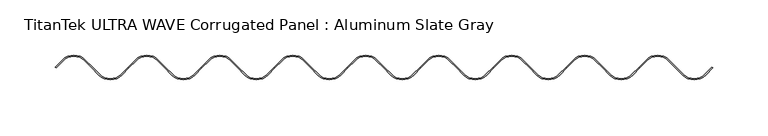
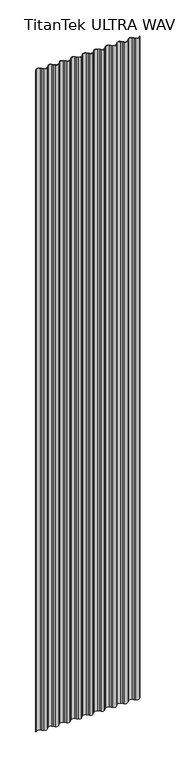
"""IFC4 building model written with IfcOpenShell, lengths in millimetres: proxy geometry, TitanTek ULTRA WAVE Corrugated Panel : Aluminum Slate Gray."""

from ifc_helpers import new_model, si_unit, point, frame_2d, origin, origin_with_axes, place, context, project, spatial, polyline, circle_curve, trimmed, segment, composite_curve, outline, extrude, source, transform, mapped, element, save


def titantek_ultra_wave_corrugated_panel_aluminum_slate_gray_d8f012a7(model_context):
    return source(origin(), model_context, "Body", "SweptSolid", [
        extrude(outline(composite_curve([segment(trimmed(circle_curve(frame_2d((577.85, -7.499029)), 14.7255365), [point((588.2625267, -17.9115558))], [point((567.4374733, -17.9115558))], False, "CARTESIAN"), True, "CONTINUOUS"), segment(polyline([(567.4374733, -17.9115558), (560.9892087, -11.4632913), (554.5409442, -5.0150267)]), True, "CONTINUOUS"), segment(trimmed(circle_curve(frame_2d((544.83, -14.725971)), 13.733349), [point((554.5409442, -5.0150267))], [point((535.1190558, -5.0150267))], True, "CARTESIAN"), True, "CONTINUOUS"), segment(polyline([(535.1190558, -5.0150267), (528.6707913, -11.4632913), (527.9692087, -10.7617087), (534.4174733, -4.3134442)]), True, "CONTINUOUS"), segment(trimmed(circle_curve(frame_2d((544.83, -14.725971)), 14.7255365), [point((534.4174733, -4.3134442))], [point((555.2425267, -4.3134442))], False, "CARTESIAN"), True, "CONTINUOUS"), segment(polyline([(555.2425267, -4.3134442), (561.6907913, -10.7617087), (568.1390558, -17.2099733)]), True, "CONTINUOUS"), segment(trimmed(circle_curve(frame_2d((577.85, -7.499029)), 13.733349), [point((568.1390558, -17.2099733))], [point((587.5609442, -17.2099733))], True, "CARTESIAN"), True, "CONTINUOUS"), segment(polyline([(587.5609442, -17.2099733), (594.0092087, -10.7617087), (594.7107913, -11.4632913), (588.2625267, -17.9115558)]), True, "CONTINUOUS")], self_intersect=False)), origin_with_axes(), (0.0, 0.0, 1.0), 4000.0),
        extrude(outline(composite_curve([segment(trimmed(circle_curve(frame_2d((511.81, -7.499029)), 14.7255365), [point((522.2225267, -17.9115558))], [point((501.3974733, -17.9115558))], False, "CARTESIAN"), True, "CONTINUOUS"), segment(polyline([(501.3974733, -17.9115558), (494.9492087, -11.4632913), (488.5009442, -5.0150267)]), True, "CONTINUOUS"), segment(trimmed(circle_curve(frame_2d((478.79, -14.725971)), 13.733349), [point((488.5009442, -5.0150267))], [point((469.0790558, -5.0150267))], True, "CARTESIAN"), True, "CONTINUOUS"), segment(polyline([(469.0790558, -5.0150267), (462.6307913, -11.4632913), (461.9292087, -10.7617087), (468.3774733, -4.3134442)]), True, "CONTINUOUS"), segment(trimmed(circle_curve(frame_2d((478.79, -14.725971)), 14.7255365), [point((468.3774733, -4.3134442))], [point((489.2025267, -4.3134442))], False, "CARTESIAN"), True, "CONTINUOUS"), segment(polyline([(489.2025267, -4.3134442), (495.6507913, -10.7617087), (502.0990558, -17.2099733)]), True, "CONTINUOUS"), segment(trimmed(circle_curve(frame_2d((511.81, -7.499029)), 13.733349), [point((502.0990558, -17.2099733))], [point((521.5209442, -17.2099733))], True, "CARTESIAN"), True, "CONTINUOUS"), segment(polyline([(521.5209442, -17.2099733), (527.9692087, -10.7617087), (528.6707913, -11.4632913), (522.2225267, -17.9115558)]), True, "CONTINUOUS")], self_intersect=False)), origin_with_axes(), (0.0, 0.0, 1.0), 4000.0),
        extrude(outline(composite_curve([segment(trimmed(circle_curve(frame_2d((445.77, -7.499029)), 14.7255365), [point((456.1825267, -17.9115558))], [point((435.3574733, -17.9115558))], False, "CARTESIAN"), True, "CONTINUOUS"), segment(polyline([(435.3574733, -17.9115558), (428.9092087, -11.4632913), (422.4609442, -5.0150267)]), True, "CONTINUOUS"), segment(trimmed(circle_curve(frame_2d((412.75, -14.725971)), 13.733349), [point((422.4609442, -5.0150267))], [point((403.0390558, -5.0150267))], True, "CARTESIAN"), True, "CONTINUOUS"), segment(polyline([(403.0390558, -5.0150267), (396.5907913, -11.4632913), (395.8892087, -10.7617087), (402.3374733, -4.3134442)]), True, "CONTINUOUS"), segment(trimmed(circle_curve(frame_2d((412.75, -14.725971)), 14.7255365), [point((402.3374733, -4.3134442))], [point((423.1625267, -4.3134442))], False, "CARTESIAN"), True, "CONTINUOUS"), segment(polyline([(423.1625267, -4.3134442), (429.6107913, -10.7617087), (436.0590558, -17.2099733)]), True, "CONTINUOUS"), segment(trimmed(circle_curve(frame_2d((445.77, -7.499029)), 13.733349), [point((436.0590558, -17.2099733))], [point((455.4809442, -17.2099733))], True, "CARTESIAN"), True, "CONTINUOUS"), segment(polyline([(455.4809442, -17.2099733), (461.9292087, -10.7617087), (462.6307913, -11.4632913), (456.1825267, -17.9115558)]), True, "CONTINUOUS")], self_intersect=False)), origin_with_axes(), (0.0, 0.0, 1.0), 4000.0),
        extrude(outline(composite_curve([segment(trimmed(circle_curve(frame_2d((379.73, -7.499029)), 14.7255365), [point((390.1425267, -17.9115558))], [point((369.3174733, -17.9115558))], False, "CARTESIAN"), True, "CONTINUOUS"), segment(polyline([(369.3174733, -17.9115558), (362.8692087, -11.4632913), (356.4209442, -5.0150267)]), True, "CONTINUOUS"), segment(trimmed(circle_curve(frame_2d((346.71, -14.725971)), 13.733349), [point((356.4209442, -5.0150267))], [point((336.9990558, -5.0150267))], True, "CARTESIAN"), True, "CONTINUOUS"), segment(polyline([(336.9990558, -5.0150267), (330.5507913, -11.4632913), (329.8492087, -10.7617087), (336.2974733, -4.3134442)]), True, "CONTINUOUS"), segment(trimmed(circle_curve(frame_2d((346.71, -14.725971)), 14.7255365), [point((336.2974733, -4.3134442))], [point((357.1225267, -4.3134442))], False, "CARTESIAN"), True, "CONTINUOUS"), segment(polyline([(357.1225267, -4.3134442), (363.5707913, -10.7617087), (370.0190558, -17.2099733)]), True, "CONTINUOUS"), segment(trimmed(circle_curve(frame_2d((379.73, -7.499029)), 13.733349), [point((370.0190558, -17.2099733))], [point((389.4409442, -17.2099733))], True, "CARTESIAN"), True, "CONTINUOUS"), segment(polyline([(389.4409442, -17.2099733), (395.8892087, -10.7617087), (396.5907913, -11.4632913), (390.1425267, -17.9115558)]), True, "CONTINUOUS")], self_intersect=False)), origin_with_axes(), (0.0, 0.0, 1.0), 4000.0),
        extrude(outline(composite_curve([segment(trimmed(circle_curve(frame_2d((313.69, -7.499029)), 14.7255365), [point((324.1025267, -17.9115558))], [point((303.2774733, -17.9115558))], False, "CARTESIAN"), True, "CONTINUOUS"), segment(polyline([(303.2774733, -17.9115558), (296.8292087, -11.4632913), (290.3809442, -5.0150267)]), True, "CONTINUOUS"), segment(trimmed(circle_curve(frame_2d((280.67, -14.725971)), 13.733349), [point((290.3809442, -5.0150267))], [point((270.9590558, -5.0150267))], True, "CARTESIAN"), True, "CONTINUOUS"), segment(polyline([(270.9590558, -5.0150267), (264.5107913, -11.4632913), (263.8092087, -10.7617087), (270.2574733, -4.3134442)]), True, "CONTINUOUS"), segment(trimmed(circle_curve(frame_2d((280.67, -14.725971)), 14.7255365), [point((270.2574733, -4.3134442))], [point((291.0825267, -4.3134442))], False, "CARTESIAN"), True, "CONTINUOUS"), segment(polyline([(291.0825267, -4.3134442), (297.5307913, -10.7617087), (303.9790558, -17.2099733)]), True, "CONTINUOUS"), segment(trimmed(circle_curve(frame_2d((313.69, -7.499029)), 13.733349), [point((303.9790558, -17.2099733))], [point((323.4009442, -17.2099733))], True, "CARTESIAN"), True, "CONTINUOUS"), segment(polyline([(323.4009442, -17.2099733), (329.8492087, -10.7617087), (330.5507913, -11.4632913), (324.1025267, -17.9115558)]), True, "CONTINUOUS")], self_intersect=False)), origin_with_axes(), (0.0, 0.0, 1.0), 4000.0),
        extrude(outline(composite_curve([segment(trimmed(circle_curve(frame_2d((247.65, -7.499029)), 14.7255365), [point((258.0625267, -17.9115558))], [point((237.2374733, -17.9115558))], False, "CARTESIAN"), True, "CONTINUOUS"), segment(polyline([(237.2374733, -17.9115558), (230.7892087, -11.4632913), (224.3409442, -5.0150267)]), True, "CONTINUOUS"), segment(trimmed(circle_curve(frame_2d((214.63, -14.725971)), 13.733349), [point((224.3409442, -5.0150267))], [point((204.9190558, -5.0150267))], True, "CARTESIAN"), True, "CONTINUOUS"), segment(polyline([(204.9190558, -5.0150267), (198.4707913, -11.4632913), (197.7692087, -10.7617087), (204.2174733, -4.3134442)]), True, "CONTINUOUS"), segment(trimmed(circle_curve(frame_2d((214.63, -14.725971)), 14.7255365), [point((204.2174733, -4.3134442))], [point((225.0425267, -4.3134442))], False, "CARTESIAN"), True, "CONTINUOUS"), segment(polyline([(225.0425267, -4.3134442), (231.4907913, -10.7617087), (237.9390558, -17.2099733)]), True, "CONTINUOUS"), segment(trimmed(circle_curve(frame_2d((247.65, -7.499029)), 13.733349), [point((237.9390558, -17.2099733))], [point((257.3609442, -17.2099733))], True, "CARTESIAN"), True, "CONTINUOUS"), segment(polyline([(257.3609442, -17.2099733), (263.8092087, -10.7617087), (264.5107913, -11.4632913), (258.0625267, -17.9115558)]), True, "CONTINUOUS")], self_intersect=False)), origin_with_axes(), (0.0, 0.0, 1.0), 4000.0),
        extrude(outline(composite_curve([segment(trimmed(circle_curve(frame_2d((181.61, -7.499029)), 14.7255365), [point((192.0225267, -17.9115558))], [point((171.1974733, -17.9115558))], False, "CARTESIAN"), True, "CONTINUOUS"), segment(polyline([(171.1974733, -17.9115558), (164.7492087, -11.4632913), (158.3009442, -5.0150267)]), True, "CONTINUOUS"), segment(trimmed(circle_curve(frame_2d((148.59, -14.725971)), 13.733349), [point((158.3009442, -5.0150267))], [point((138.8790558, -5.0150267))], True, "CARTESIAN"), True, "CONTINUOUS"), segment(polyline([(138.8790558, -5.0150267), (132.4307913, -11.4632913), (131.7292087, -10.7617087), (138.1774733, -4.3134442)]), True, "CONTINUOUS"), segment(trimmed(circle_curve(frame_2d((148.59, -14.725971)), 14.7255365), [point((138.1774733, -4.3134442))], [point((159.0025267, -4.3134442))], False, "CARTESIAN"), True, "CONTINUOUS"), segment(polyline([(159.0025267, -4.3134442), (165.4507913, -10.7617087), (171.8990558, -17.2099733)]), True, "CONTINUOUS"), segment(trimmed(circle_curve(frame_2d((181.61, -7.499029)), 13.733349), [point((171.8990558, -17.2099733))], [point((191.3209442, -17.2099733))], True, "CARTESIAN"), True, "CONTINUOUS"), segment(polyline([(191.3209442, -17.2099733), (197.7692087, -10.7617087), (198.4707913, -11.4632913), (192.0225267, -17.9115558)]), True, "CONTINUOUS")], self_intersect=False)), origin_with_axes(), (0.0, 0.0, 1.0), 4000.0),
        extrude(outline(composite_curve([segment(trimmed(circle_curve(frame_2d((115.57, -7.499029)), 14.7255365), [point((125.9825267, -17.9115558))], [point((105.1574733, -17.9115558))], False, "CARTESIAN"), True, "CONTINUOUS"), segment(polyline([(105.1574733, -17.9115558), (98.7092087, -11.4632913), (92.2609442, -5.0150267)]), True, "CONTINUOUS"), segment(trimmed(circle_curve(frame_2d((82.55, -14.725971)), 13.733349), [point((92.2609442, -5.0150267))], [point((72.8390558, -5.0150267))], True, "CARTESIAN"), True, "CONTINUOUS"), segment(polyline([(72.8390558, -5.0150267), (66.3907913, -11.4632913), (65.6892087, -10.7617087), (72.1374733, -4.3134442)]), True, "CONTINUOUS"), segment(trimmed(circle_curve(frame_2d((82.55, -14.725971)), 14.7255365), [point((72.1374733, -4.3134442))], [point((92.9625267, -4.3134442))], False, "CARTESIAN"), True, "CONTINUOUS"), segment(polyline([(92.9625267, -4.3134442), (99.4107913, -10.7617087), (105.8590558, -17.2099733)]), True, "CONTINUOUS"), segment(trimmed(circle_curve(frame_2d((115.57, -7.499029)), 13.733349), [point((105.8590558, -17.2099733))], [point((125.2809442, -17.2099733))], True, "CARTESIAN"), True, "CONTINUOUS"), segment(polyline([(125.2809442, -17.2099733), (131.7292087, -10.7617087), (132.4307913, -11.4632913), (125.9825267, -17.9115558)]), True, "CONTINUOUS")], self_intersect=False)), origin_with_axes(), (0.0, 0.0, 1.0), 4000.0),
        extrude(outline(composite_curve([segment(trimmed(circle_curve(frame_2d((49.53, -7.499029)), 14.7255365), [point((59.9425267, -17.9115558))], [point((39.1174733, -17.9115558))], False, "CARTESIAN"), True, "CONTINUOUS"), segment(polyline([(39.1174733, -17.9115558), (32.6692087, -11.4632913), (26.2209442, -5.0150267)]), True, "CONTINUOUS"), segment(trimmed(circle_curve(frame_2d((16.51, -14.725971)), 13.733349), [point((26.2209442, -5.0150267))], [point((6.7990558, -5.0150267))], True, "CARTESIAN"), True, "CONTINUOUS"), segment(polyline([(6.7990558, -5.0150267), (0.3507913, -11.4632913), (-0.3507913, -10.7617087), (6.0974733, -4.3134442)]), True, "CONTINUOUS"), segment(trimmed(circle_curve(frame_2d((16.51, -14.725971)), 14.7255365), [point((6.0974733, -4.3134442))], [point((26.9225267, -4.3134442))], False, "CARTESIAN"), True, "CONTINUOUS"), segment(polyline([(26.9225267, -4.3134442), (33.3707913, -10.7617087), (39.8190558, -17.2099733)]), True, "CONTINUOUS"), segment(trimmed(circle_curve(frame_2d((49.53, -7.499029)), 13.733349), [point((39.8190558, -17.2099733))], [point((59.2409442, -17.2099733))], True, "CARTESIAN"), True, "CONTINUOUS"), segment(polyline([(59.2409442, -17.2099733), (65.6892087, -10.7617087), (66.3907913, -11.4632913), (59.9425267, -17.9115558)]), True, "CONTINUOUS")], self_intersect=False)), origin_with_axes(), (0.0, 0.0, 1.0), 4000.0),
    ])


if __name__ == "__main__":
    model = new_model("IFC4")
    model_context = context("Model", 3, world=origin())
    ifc_project = project(units=[si_unit("LENGTHUNIT", "METRE", prefix="MILLI")], contexts=[model_context])
    site = spatial("IfcSite", under=ifc_project)
    building = spatial("IfcBuilding", under=site)
    placement = place(None, origin())
    titantek_ultra_wave_corrugated_panel_aluminum_slate_gray_shape = titantek_ultra_wave_corrugated_panel_aluminum_slate_gray_d8f012a7(model_context)
    element("IfcBuildingElementProxy", 1, Name="TitanTek ULTRA WAVE Corrugated Panel : Aluminum Slate Gray", ObjectType="TitanTek ULTRA WAVE Corrugated Panel : Aluminum Slate Gray", at=placement, inside=building, context=model_context, shape_type="MappedRepresentation", body=[
        mapped(titantek_ultra_wave_corrugated_panel_aluminum_slate_gray_shape, transform((0.0, 0.0, 0.0), x_axis=(1.0, 0.0, 0.0), y_axis=(0.0, 1.0, 0.0), z_axis=(0.0, 0.0, 1.0))),
    ])
    save(model, "model.ifc")
